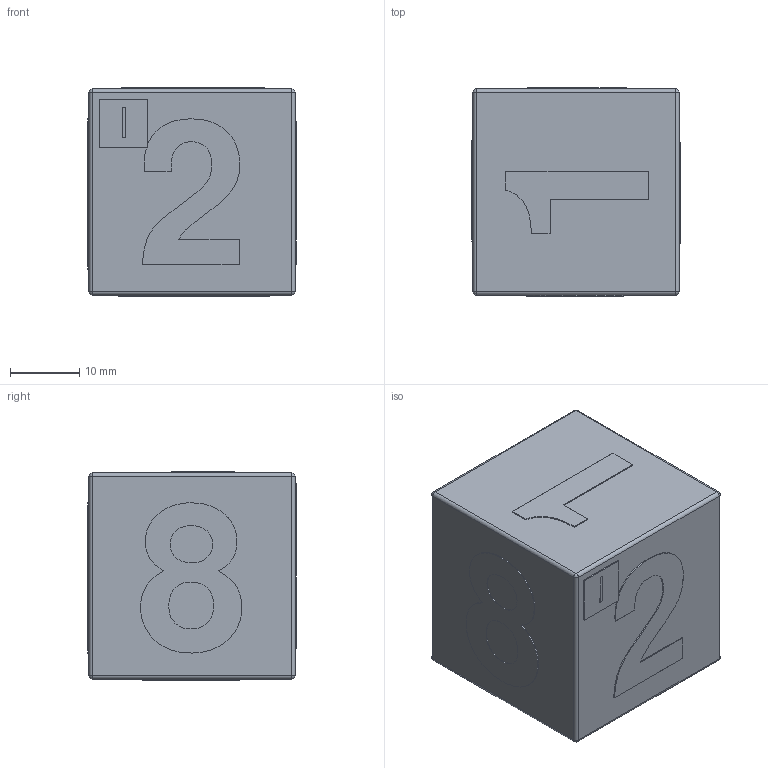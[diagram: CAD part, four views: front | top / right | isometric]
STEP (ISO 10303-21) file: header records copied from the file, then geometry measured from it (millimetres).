
FILE_DESCRIPTION(('Open CASCADE Model'),'2;1');
FILE_NAME('Open CASCADE Shape Model','2025-09-14T20:47:13',('Author'),( 'Open CASCADE'),'Open CASCADE STEP processor 7.8','Open CASCADE 7.8' ,'Unknown');
FILE_SCHEMA(('AUTOMOTIVE_DESIGN { 1 0 10303 214 1 1 1 1 }'));
Length unit declared in the file: millimetre
Products named in the file (20): 9c5cb610-91a3-11f0-88d2-1c1b0deae66b; 9c5cb7aa-91a3-11f0-88d2-1c1b0deae66b; 9c5cb7aa-91a3-11f0-88d2-1c1b0deae66b_part; 9c662ad8-91a3-11f0-88d2-1c1b0deae66b; 9c662ad8-91a3-11f0-88d2-1c1b0deae66b_part; 9c679260-91a3-11f0-88d2-1c1b0deae66b; 9c679260-91a3-11f0-88d2-1c1b0deae66b_part; 9c696fd6-91a3-11f0-88d2-1c1b0deae66b; 9c696fd6-91a3-11f0-88d2-1c1b0deae66b_part; 9c6b2f42-91a3-11f0-88d2-1c1b0deae66b; 9c6b2f42-91a3-11f0-88d2-1c1b0deae66b_part; 9c6c4c06-91a3-11f0-88d2-1c1b0deae66b; 9c6c4c06-91a3-11f0-88d2-1c1b0deae66b_part; 9c6df4de-91a3-11f0-88d2-1c1b0deae66b; 9c6df4de-91a3-11f0-88d2-1c1b0deae66b_part; 9c7056c0-91a3-11f0-88d2-1c1b0deae66b; 9c7056c0-91a3-11f0-88d2-1c1b0deae66b_part; 9c705828-91a3-11f0-88d2-1c1b0deae66b; 9c705828-91a3-11f0-88d2-1c1b0deae66b_part
Assembly tree (19 placements, depth 4):
  9c5cb610-91a3-11f0-88d2-1c1b0deae66b
    9c5cb610-91a3-11f0-88d2-1c1b0deae66b
      9c5cb7aa-91a3-11f0-88d2-1c1b0deae66b
        9c5cb7aa-91a3-11f0-88d2-1c1b0deae66b_part
      9c662ad8-91a3-11f0-88d2-1c1b0deae66b
        9c662ad8-91a3-11f0-88d2-1c1b0deae66b_part
      9c679260-91a3-11f0-88d2-1c1b0deae66b
        9c679260-91a3-11f0-88d2-1c1b0deae66b_part
      9c696fd6-91a3-11f0-88d2-1c1b0deae66b
        9c696fd6-91a3-11f0-88d2-1c1b0deae66b_part
      9c6b2f42-91a3-11f0-88d2-1c1b0deae66b
        9c6b2f42-91a3-11f0-88d2-1c1b0deae66b_part
      9c6c4c06-91a3-11f0-88d2-1c1b0deae66b
        9c6c4c06-91a3-11f0-88d2-1c1b0deae66b_part
      9c6df4de-91a3-11f0-88d2-1c1b0deae66b
        9c6df4de-91a3-11f0-88d2-1c1b0deae66b_part
      9c7056c0-91a3-11f0-88d2-1c1b0deae66b
        9c7056c0-91a3-11f0-88d2-1c1b0deae66b_part
      9c705828-91a3-11f0-88d2-1c1b0deae66b
        9c705828-91a3-11f0-88d2-1c1b0deae66b_part
Bounding box: 30 x 30 x 30 mm (x, y, z)
Volume: 26329.7 mm3; surface area: 7313.3 mm2
Topology: 9 solids, 9 shells, 197 faces, 521 edges, 334 vertices
Faces by surface type: extrusion 100, plane 77, cylinder 12, sphere 8
Entity records: 13201 total; most frequent: CARTESIAN_POINT 3164, DIRECTION 1459, VECTOR 1177, LINE 1077, ORIENTED_EDGE 1026, PCURVE 1026, DEFINITIONAL_REPRESENTATION 1026, B_SPLINE_CURVE_WITH_KNOTS 538
